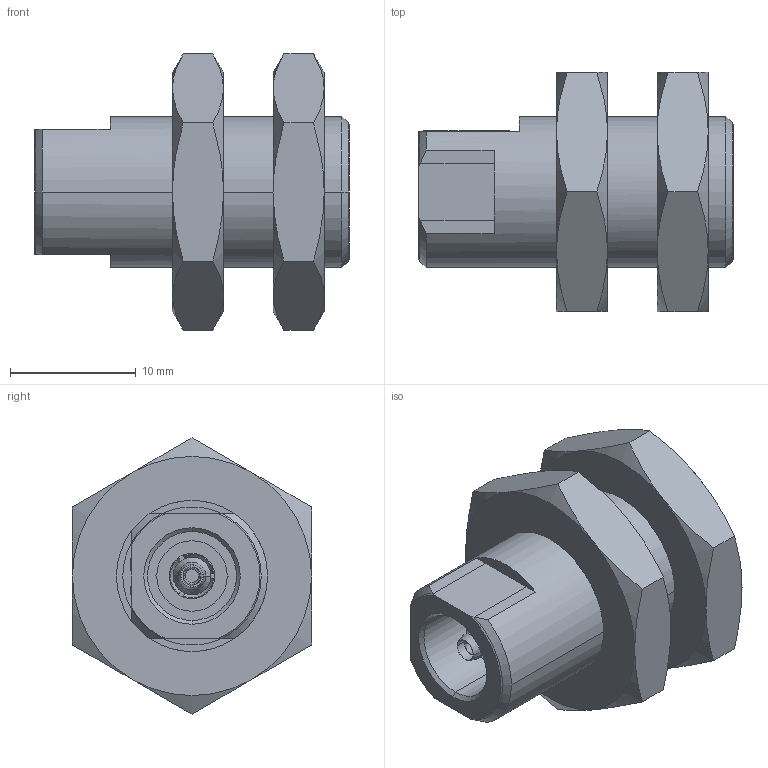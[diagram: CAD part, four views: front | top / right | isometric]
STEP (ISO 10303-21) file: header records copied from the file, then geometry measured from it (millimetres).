
FILE_DESCRIPTION((''),'2;1');
FILE_NAME('ES2_ASM','2008-09-19T',('11000205'),(''),'PRO/ENGINEER BY PARAMETRIC TECHNOLOGY CORPORATION, 2006460','PRO/ENGINEER BY PARAMETRIC TECHNOLOGY CORPORATION, 2006460','');
FILE_SCHEMA(('CONFIG_CONTROL_DESIGN'));
Length unit declared in the file: millimetre
Products named in the file (4): ES2; MUTTER-SW19; ZFG0_134; ES2_ASM
Assembly tree (4 placements, depth 2):
  ES2_ASM
    ES2
    MUTTER-SW19  x2
    ZFG0_134
Bounding box: 25 x 19 x 21.94 mm (x, y, z)
Volume: 4195.1 mm3; surface area: 4651.1 mm2
Topology: 4 solids, 7 shells, 820 faces, 2319 edges, 1523 vertices
Faces by surface type: plane 670, cylinder 75, cone 70, torus 5
Entity records: 25910 total; most frequent: CARTESIAN_POINT 5081, ORIENTED_EDGE 4494, DIRECTION 4007, EDGE_CURVE 2257, VECTOR 1911, LINE 1911, VERTEX_POINT 1487, AXIS2_PLACEMENT_3D 1048
